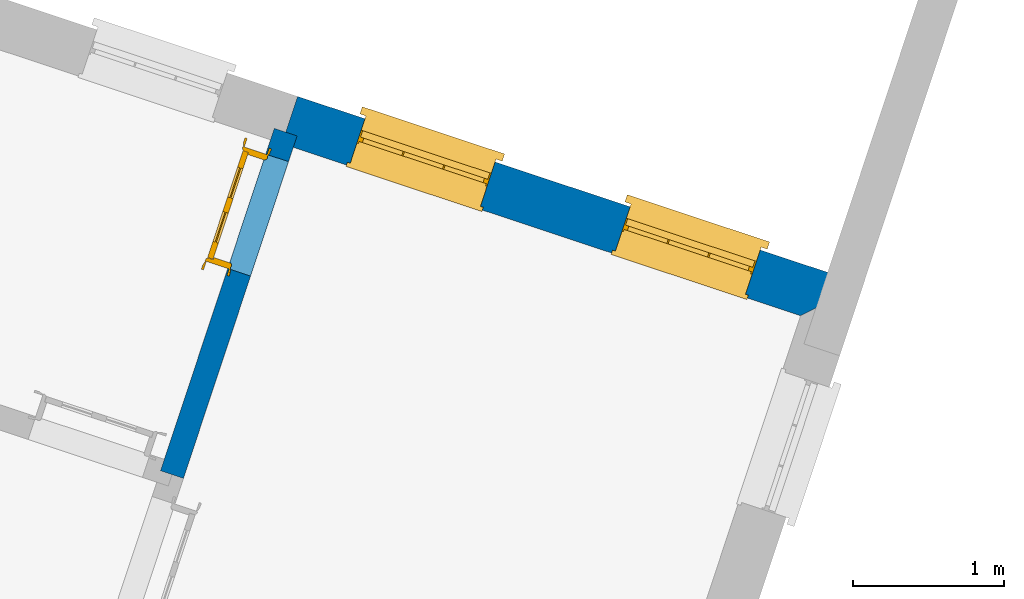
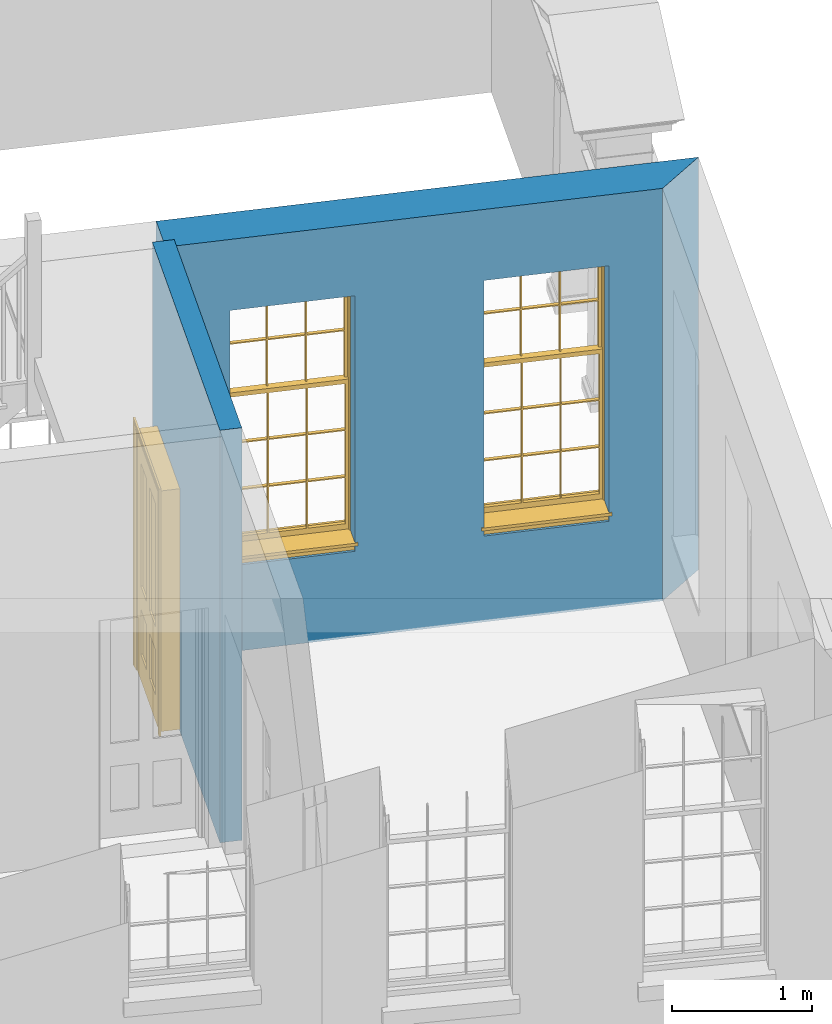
# One storey, part 5 of 6: 2 walls, 2 windows, 1 door, 3 openings.
"""IFC4 building model written with IfcOpenShell, lengths in metres."""

from ifc_helpers import new_model, si_unit, frame, origin, origin_with_axes, place, context, subcontext, project, spatial, polyline, outline, extrude, faceted_brep, source, transform, mapped, material, layer, layer_set, layer_usage, type_object, type_shapes, element, fill, save


model = new_model("IFC4")

# Units and contexts
model_context = context("Model", 3, world=origin_with_axes())
body_context = subcontext(model_context, "Body", "Model", "MODEL_VIEW")
ifc_project = project(units=[si_unit("PLANEANGLEUNIT", "RADIAN"), si_unit("MASSUNIT", "GRAM", prefix="KILO"), si_unit("FORCEUNIT", "NEWTON", prefix="KILO"), si_unit("LENGTHUNIT", "METRE"), si_unit("AREAUNIT", "SQUARE_METRE"), si_unit("VOLUMEUNIT", "CUBIC_METRE")], contexts=[model_context, model_context])

# Sites, building, storey
site_1_placement = place(None, origin_with_axes())
site_1 = spatial("IfcSite", under=ifc_project, at=site_1_placement, Name="Tamar")
site_2_placement = place(site_1_placement, origin_with_axes())
site_2 = spatial("IfcSite", under=site_1, at=site_2_placement, Name="Site plot-18", CompositionType="ELEMENT")
building_placement = place(None, origin_with_axes())
building = spatial("IfcBuilding", under=site_2, at=building_placement, Name="Building plot-18", CompositionType="ELEMENT")
storey_placement = place(None, frame((0.0, 0.0, 26.0), z_axis=(0.0, 0.0, 1.0), x_axis=(1.0, 0.0, 0.0)))
storey = spatial("IfcBuildingStorey", under=building, at=storey_placement, Name="plot-18 0", CompositionType="ELEMENT", Elevation=26.0)

# Wall, openings, windows
ifc_material_1 = material(Name="Masonry")
ifc_layer_1 = layer(ifc_material_1, 0.33, ventilated=False)
ifc_layer_set_1 = layer_set([ifc_layer_1], Name="exterior_0.08_0.25")
ifc_layer_usage_1 = layer_usage(ifc_layer_set_1, "AXIS2", "POSITIVE", -0.25)
wall_type_1 = type_object("IfcWallType", Name="exterior_0.08_0.25", PredefinedType="SOLIDWALL", material=ifc_layer_set_1)
wall_1_placement = place(storey_placement, frame((270.790897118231, 294.207482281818, 0.0), z_axis=(0.0, 0.0, 1.0), x_axis=(-0.949078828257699, 0.31503869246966, 0.0)))
wall_1 = element("IfcWall", 1, at=wall_1_placement, inside=storey, type_object=wall_type_1, material=ifc_layer_usage_1, Name="exterior", context=body_context, shape_type="SweptSolid", body=[
    extrude(outline(polyline([(0.0799999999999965, 0.0799999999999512), (-0.249999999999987, -0.249999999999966), (3.70755693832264, -0.249999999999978), (3.70755693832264, 0.079999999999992), (0.0799999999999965, 0.0799999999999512)])), origin_with_axes(), (0.0, 0.0, 1.0), 3.6),
])
opening_1_placement = place(wall_1_placement, frame((0.47188923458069, 0.0, 0.75)))
opening_1 = element("IfcOpeningElement", 2, at=opening_1_placement, cuts=wall_1, Name="My Opening", ObjectType="Opening", context=body_context, shape_type="SweptSolid", body=[
    extrude(outline(polyline([(0.0, -0.269999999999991), (0.909999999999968, -0.269999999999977), (0.909999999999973, 1.10000000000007), (5.32907051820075e-15, 1.10000000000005), (0.0, -0.269999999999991)])), origin_with_axes(), (0.0, 0.0, 1.0), 2.23),
])
opening_2_placement = place(wall_1_placement, frame((2.32566770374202, 0.0, 0.75)))
opening_2 = element("IfcOpeningElement", 3, at=opening_2_placement, cuts=wall_1, Name="My Opening", ObjectType="Opening", context=body_context, shape_type="SweptSolid", body=[
    extrude(outline(polyline([(0.0, -0.270000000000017), (0.909999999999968, -0.270000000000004), (0.909999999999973, 1.10000000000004), (5.32907051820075e-15, 1.10000000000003), (0.0, -0.270000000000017)])), origin_with_axes(), (0.0, 0.0, 1.0), 2.23),
])
window_type = type_object("IfcWindowType", Name="sash_big_taller", PartitioningType="DOUBLE_PANEL_HORIZONTAL", PredefinedType="NOTDEFINED")
shared_shape_1 = source(origin(), body_context, "Body", "Brep", [
    faceted_brep([(0.033125, 0.145, 1.385209), (0.01, 0.145, 1.385209), (0.033125, 0.145, 1.786042), (0.876875, 0.145, 1.385209), (0.876875, 0.145, 1.786042), (0.9, 0.145, 1.385209), (0.876875, 0.145, 1.796042), (0.876875, 0.145, 2.196875), (0.9, 0.145, 2.22), (0.033125, 0.145, 2.196875), (0.033125, 0.145, 1.796042), (0.01, 0.145, 2.22), (0.876875, 0.115, 1.786042), (0.876875, 0.115, 1.385209), (0.9, 0.115, 1.347084), (0.033125, 0.115, 2.196875), (0.01, 0.115, 2.22), (0.033125, 0.115, 1.796042), (0.01, 0.115, 1.347084), (0.033125, 0.115, 1.385209), (0.033125, 0.115, 1.786042), (0.876875, 0.115, 2.196875), (0.876875, 0.115, 1.796042), (0.9, 0.115, 2.22), (0.033125, 0.145, 1.347084), (0.01, 0.145, 1.347084), (0.033125, 0.145, 0.94625), (0.876875, 0.145, 1.347084), (0.876875, 0.145, 0.94625), (0.9, 0.145, 1.347084), (0.876875, 0.145, 0.52625), (0.876875, 0.145, 0.125417), (0.9, 0.145, 0.077167), (0.033125, 0.145, 0.125417), (0.033125, 0.145, 0.52625), (0.01, 0.145, 0.077167), (-0.0425, 0.0, 0.01), (-0.0425, -0.05, 0.001667), (0.0, 0.0, 0.01), (0.9525, 0.0, 0.01), (0.91, 0.0, 0.01), (0.9525, -0.05, 0.001667), (-0.02, 0.33, 0.077167), (0.0, 0.33, 0.077167), (-0.02, 0.36, 0.077167), (0.0, 0.19, 0.077167), (0.01, 0.19, 0.077167), (0.91, 0.19, 0.077167), (0.91, 0.33, 0.077167), (0.9, 0.19, 0.077167), (0.93, 0.33, 0.077167), (0.93, 0.36, 0.077167), (0.01, 0.175, 1.385209), (0.9, 0.175, 1.385209), (0.876875, 0.175, 0.125417), (0.876875, 0.175, 0.52625), (0.9, 0.175, 0.077167), (0.876875, 0.175, 0.94625), (0.876875, 0.175, 1.347084), (0.033125, 0.175, 0.125417), (0.01, 0.175, 0.077167), (0.033125, 0.175, 0.52625), (0.033125, 0.175, 1.347084), (0.033125, 0.175, 0.94625), (-0.02, 0.33, 0.052167), (-0.02, 0.36, 0.052167), (0.93, 0.36, 0.052167), (0.93, 0.33, 0.052167), (0.91, 0.33, 0.052167), (0.0, 0.33, 0.052167), (0.91, 0.1, 0.026667), (0.0, 0.1, 0.026667), (-0.0425, -0.05, -0.123333), (0.9525, -0.05, -0.123333), (-0.0425, 0.0, -0.123333), (0.9525, 0.0, -0.123333), (0.01, 0.19, 2.22), (0.9, 0.19, 2.22), (0.0, 0.19, 2.23), (0.91, 0.19, 2.23), (0.01, 0.1, 0.077167), (0.9, 0.1, 0.077167), (0.592292, 0.145, 0.125417), (0.592292, 0.175, 0.125417), (0.317708, 0.175, 0.125417), (0.317708, 0.145, 0.125417), (0.592292, 0.145, 0.53625), (0.317708, 0.145, 0.53625), (0.317708, 0.145, 0.52625), (0.592292, 0.145, 0.52625), (0.592292, 0.175, 0.53625), (0.317708, 0.175, 0.53625), (0.592292, 0.115, 1.796042), (0.592292, 0.145, 1.796042), (0.317708, 0.145, 1.796042), (0.317708, 0.115, 1.796042), (0.317708, 0.115, 1.786042), (0.592292, 0.115, 1.786042), (0.317708, 0.145, 1.786042), (0.592292, 0.145, 1.786042), (0.602292, 0.115, 1.786042), (0.592292, 0.115, 1.385209), (0.602292, 0.115, 1.385209), (0.602292, 0.145, 1.385209), (0.592292, 0.145, 1.385209), (0.602292, 0.145, 1.786042), (0.876875, 0.145, 0.53625), (0.876875, 0.175, 0.53625), (0.602292, 0.175, 0.53625), (0.602292, 0.145, 0.53625), (0.317708, 0.175, 0.52625), (0.307708, 0.175, 0.125417), (0.307708, 0.175, 0.52625), (0.602292, 0.175, 0.52625), (0.602292, 0.175, 0.125417), (0.592292, 0.175, 0.52625), (0.307708, 0.175, 0.53625), (0.033125, 0.175, 0.53625), (0.317708, 0.175, 1.347084), (0.317708, 0.175, 0.94625), (0.307708, 0.175, 0.94625), (0.307708, 0.175, 1.347084), (0.602292, 0.175, 1.347084), (0.602292, 0.175, 0.94625), (0.592292, 0.175, 0.94625), (0.592292, 0.175, 1.347084), (0.307708, 0.145, 0.52625), (0.307708, 0.145, 0.125417), (0.307708, 0.145, 0.53625), (0.033125, 0.145, 0.53625), (0.307708, 0.145, 1.347084), (0.307708, 0.145, 0.94625), (0.592292, 0.145, 1.347084), (0.592292, 0.145, 0.94625), (0.317708, 0.145, 0.94625), (0.317708, 0.145, 1.347084), (0.602292, 0.145, 0.94625), (0.602292, 0.145, 1.347084), (0.602292, 0.145, 0.52625), (0.602292, 0.145, 0.125417), (0.307708, 0.115, 1.796042), (0.307708, 0.115, 1.786042), (0.307708, 0.115, 1.385209), (0.317708, 0.115, 1.385209), (0.317708, 0.115, 2.196875), (0.307708, 0.115, 2.196875), (0.602292, 0.115, 2.196875), (0.592292, 0.115, 2.196875), (0.602292, 0.115, 1.796042), (0.602292, 0.145, 1.796042), (0.307708, 0.145, 1.796042), (0.307708, 0.145, 2.196875), (0.317708, 0.145, 2.196875), (0.592292, 0.145, 2.196875), (0.602292, 0.145, 2.196875), (0.307708, 0.145, 1.786042), (0.317708, 0.145, 1.385209), (0.307708, 0.145, 1.385209), (0.876875, 0.175, 0.93625), (0.033125, 0.175, 0.93625), (0.033125, 0.145, 0.93625), (0.876875, 0.145, 0.93625), (0.91, 0.1, 2.23), (0.9, 0.1, 2.22), (0.01, 0.1, 2.22), (0.0, 0.1, 2.23), (0.91, 0.0, 0.0), (0.0, 0.0, 0.0), (0.91, 0.33, 0.0), (0.0, 0.33, 0.0), (0.317708, 0.145, 0.93625), (0.592292, 0.145, 0.93625), (0.317708, 0.175, 0.93625), (0.307708, 0.175, 0.93625), (0.602292, 0.175, 0.93625), (0.592292, 0.175, 0.93625), (0.307708, 0.145, 0.93625), (0.602292, 0.145, 0.93625)], [[[0, 1, 2]], [[3, 4, 5]], [[6, 7, 8]], [[9, 10, 11]], [[12, 13, 14]], [[15, 16, 17]], [[18, 19, 20]], [[21, 22, 23]], [[24, 25, 26]], [[27, 28, 29]], [[30, 31, 32]], [[33, 34, 35]], [[14, 27, 29]], [[25, 24, 18]], [[36, 37, 38]], [[39, 40, 41]], [[42, 43, 44]], [[45, 46, 43]], [[47, 48, 49]], [[50, 51, 48]], [[1, 0, 52]], [[5, 53, 3]], [[54, 55, 56]], [[57, 58, 53]], [[59, 60, 61]], [[62, 63, 52]], [[48, 43, 46, 49]], [[51, 44, 43, 48]], [[64, 42, 44, 65]], [[65, 44, 51, 66]], [[66, 51, 50, 67]], [[65, 66, 68, 69]], [[60, 56, 49, 46]], [[70, 71, 38, 40]], [[37, 41, 40, 38]], [[37, 72, 73, 41]], [[74, 75, 73, 72]], [[8, 11, 76, 77]], [[76, 78, 79, 77]], [[32, 35, 80, 81]], [[81, 80, 71, 70]], [[82, 83, 84, 85]], [[86, 87, 88, 89]], [[86, 90, 91, 87]], [[92, 93, 94, 95]], [[92, 95, 96, 97]], [[96, 98, 99, 97]], [[100, 97, 101, 102]], [[103, 104, 99, 105]], [[97, 99, 104, 101]], [[102, 103, 105, 100]], [[106, 107, 108, 109]], [[110, 84, 111, 112]], [[113, 114, 83, 115]], [[116, 112, 61, 117]], [[90, 115, 110, 91]], [[118, 119, 120, 121]], [[122, 123, 124, 125]], [[113, 108, 107, 55]], [[126, 112, 111, 127]], [[34, 61, 112, 126]], [[89, 115, 83, 82]], [[88, 110, 115, 89]], [[85, 84, 110, 88]], [[128, 116, 117, 129]], [[130, 121, 120, 131]], [[132, 125, 124, 133]], [[134, 119, 118, 135]], [[136, 123, 122, 137]], [[138, 113, 55, 30]], [[139, 114, 113, 138]], [[138, 30, 106, 109]], [[88, 126, 127, 85]], [[138, 89, 82, 139]], [[137, 132, 133, 136]], [[128, 129, 34, 126]], [[135, 130, 131, 134]], [[140, 17, 20, 141]], [[96, 141, 142, 143]], [[144, 145, 140, 95]], [[146, 147, 92, 148]], [[100, 12, 22, 148]], [[149, 6, 4, 105]], [[94, 150, 151, 152]], [[149, 93, 153, 154]], [[99, 98, 94, 93]], [[155, 2, 10, 150]], [[156, 157, 155, 98]], [[141, 155, 157, 142]], [[20, 2, 155, 141]], [[143, 156, 98, 96]], [[140, 150, 10, 17]], [[145, 151, 150, 140]], [[147, 153, 93, 92]], [[95, 94, 152, 144]], [[22, 6, 149, 148]], [[148, 149, 154, 146]], [[100, 105, 4, 12]], [[109, 86, 89, 138]], [[108, 113, 115, 90]], [[91, 110, 112, 116]], [[87, 128, 126, 88]], [[97, 100, 148, 92]], [[141, 96, 95, 140]], [[98, 155, 150, 94]], [[105, 99, 93, 149]], [[143, 101, 104, 156]], [[135, 118, 125, 132]], [[144, 152, 153, 147]], [[127, 111, 59, 33]], [[15, 9, 151, 145]], [[146, 154, 7, 21]], [[31, 54, 114, 139]], [[36, 74, 72, 37]], [[39, 41, 73, 75]], [[18, 14, 101, 143]], [[23, 16, 144, 147]], [[83, 56, 60, 84]], [[52, 53, 125, 118]], [[53, 52, 156, 104]], [[11, 8, 153, 152]], [[14, 18, 135, 132]], [[2, 1, 11, 10]], [[8, 5, 4, 6]], [[57, 53, 56, 158]], [[60, 52, 63, 159]], [[26, 25, 35, 160]], [[32, 29, 28, 161]], [[14, 23, 22, 12]], [[18, 20, 17, 16]], [[19, 0, 2, 20]], [[17, 10, 9, 15]], [[12, 4, 3, 13]], [[21, 7, 6, 22]], [[27, 58, 57, 28]], [[30, 55, 54, 31]], [[33, 59, 61, 34]], [[26, 63, 62, 24]], [[5, 8, 77, 53]], [[76, 11, 1, 52]], [[46, 45, 78, 76]], [[49, 77, 79, 47]], [[70, 162, 163, 81]], [[71, 80, 164, 165]], [[19, 142, 157, 0]], [[102, 13, 3, 103]], [[121, 130, 24, 62]], [[29, 32, 81, 14]], [[80, 35, 25, 18]], [[60, 46, 76, 52]], [[77, 49, 56, 53]], [[23, 14, 81, 163]], [[16, 164, 80, 18]], [[35, 85, 127]], [[127, 33, 35]], [[139, 82, 32]], [[32, 31, 139]], [[32, 82, 85, 35]], [[102, 101, 14]], [[14, 13, 102]], [[18, 143, 142]], [[142, 19, 18]], [[146, 21, 23]], [[23, 147, 146]], [[16, 15, 145]], [[145, 144, 16]], [[11, 152, 151]], [[151, 9, 11]], [[154, 153, 8]], [[8, 7, 154]], [[23, 163, 164, 16]], [[162, 165, 164, 163]], [[52, 118, 121]], [[121, 62, 52]], [[125, 53, 122]], [[58, 122, 53]], [[27, 137, 122, 58]], [[56, 83, 114]], [[114, 54, 56]], [[111, 84, 60]], [[60, 59, 111]], [[137, 27, 14]], [[14, 132, 137]], [[130, 135, 18]], [[18, 24, 130]], [[157, 156, 52]], [[52, 0, 157]], [[103, 3, 53]], [[53, 104, 103]], [[79, 78, 165, 162]], [[78, 45, 71, 165]], [[162, 70, 47, 79]], [[166, 75, 74, 167]], [[68, 66, 67]], [[48, 68, 67, 50]], [[69, 64, 65]], [[42, 64, 69, 43]], [[69, 68, 168, 169]], [[70, 68, 48, 47]], [[166, 168, 68, 70]], [[43, 69, 71, 45]], [[69, 169, 167, 71]], [[168, 166, 167, 169]], [[38, 167, 74, 36]], [[71, 167, 38]], [[39, 75, 166, 40]], [[40, 166, 70]], [[133, 134, 170, 171]], [[133, 124, 119, 134]], [[28, 57, 123, 136]], [[172, 91, 116, 173]], [[174, 108, 90, 175]], [[120, 173, 159, 63]], [[124, 175, 172, 119]], [[174, 123, 57, 158]], [[176, 173, 116, 128]], [[160, 159, 173, 176]], [[171, 175, 90, 86]], [[170, 172, 175, 171]], [[87, 91, 172, 170]], [[131, 120, 63, 26]], [[177, 174, 158, 161]], [[109, 108, 174, 177]], [[177, 161, 28, 136]], [[170, 176, 128, 87]], [[177, 171, 86, 109]], [[131, 26, 160, 176]], [[136, 133, 171, 177]], [[123, 174, 175, 124]], [[119, 172, 173, 120]], [[134, 131, 176, 170]], [[129, 117, 159, 160]], [[161, 158, 107, 106]], [[35, 34, 129]], [[35, 129, 160]], [[32, 106, 30]], [[32, 161, 106]], [[56, 55, 107]], [[56, 107, 158]], [[60, 117, 61]], [[60, 159, 117]]]),
])
type_shapes(window_type, [shared_shape_1])
window_1_placement = place(storey_placement, frame((270.428097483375, 294.6123969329, 0.75), z_axis=(0.0, 0.0, 1.0), x_axis=(-0.86366173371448, 0.286685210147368, 0.0)))
window_1 = element("IfcWindow", 4, at=window_1_placement, inside=storey, type_object=window_type, Name="living outside window", OverallHeight=2.23, OverallWidth=0.91, context=body_context, shape_type="MappedRepresentation", body=[
    mapped(shared_shape_1, transform((0.0, 0.0, 0.0), scale=1.0)),
])
fill(opening_1, window_1)
window_2_placement = place(storey_placement, frame((268.668715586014, 295.196408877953, 0.75), z_axis=(0.0, 0.0, 1.0), x_axis=(-0.86366173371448, 0.286685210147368, 0.0)))
window_2 = element("IfcWindow", 5, at=window_2_placement, inside=storey, type_object=window_type, Name="living outside window", OverallHeight=2.23, OverallWidth=0.91, context=body_context, shape_type="MappedRepresentation", body=[
    mapped(shared_shape_1, transform((0.0, 0.0, 0.0), scale=1.0)),
])
fill(opening_2, window_2)

# Wall, opening, door
ifc_material_2 = material(Name="Masonry")
ifc_layer_2 = layer(ifc_material_2, 0.16, ventilated=False)
ifc_layer_set_2 = layer_set([ifc_layer_2], Name="interior_0.08_0.08")
ifc_layer_usage_2 = layer_usage(ifc_layer_set_2, "AXIS2", "POSITIVE", -0.08)
wall_type_2 = type_object("IfcWallType", Name="interior_0.08_0.08", PredefinedType="SOLIDWALL", material=ifc_layer_set_2)
wall_2_placement = place(storey_placement, frame((266.51771859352, 293.102772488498, 0.0), z_axis=(0.0, 0.0, 1.0), x_axis=(0.315038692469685, 0.949078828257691, 0.0)))
wall_2 = element("IfcWall", 6, at=wall_2_placement, inside=storey, type_object=wall_type_2, material=ifc_layer_usage_2, Name="interior", context=body_context, shape_type="SweptSolid", body=[
    extrude(outline(polyline([(-1.5289533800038e-14, 0.0799999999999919), (1.52993309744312e-14, -0.0799999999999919), (2.39467325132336, -0.0799999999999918), (2.39467325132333, 0.0799999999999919), (-1.5289533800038e-14, 0.0799999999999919)])), origin_with_axes(), (0.0, 0.0, 1.0), 3.6),
])
opening_3_placement = place(wall_2_placement, frame((1.41467325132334, 0.0, 0.0199999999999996)))
opening_3 = element("IfcOpeningElement", 7, at=opening_3_placement, cuts=wall_2, Name="My Opening", ObjectType="Opening", context=body_context, shape_type="SweptSolid", body=[
    extrude(outline(polyline([(0.0, -0.100000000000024), (0.799999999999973, -0.100000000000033), (0.799999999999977, 1.10000000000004), (4.66293670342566e-15, 1.10000000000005), (0.0, -0.100000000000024)])), origin_with_axes(), (0.0, 0.0, 1.0), 2.1),
])
door_type = type_object("IfcDoorType", Name="door_inside", OperationType="SINGLE_SWING_LEFT", PredefinedType="NOTDEFINED")
shared_shape_2 = source(origin(), body_context, "Body", "Brep", [
    faceted_brep([(0.773, 0.33, 1.895), (0.66, 0.33, 1.895), (0.66, 0.33, 2.073), (0.773, 0.33, 2.073), (0.773, 0.33, 0.82), (0.66, 0.33, 0.82), (0.45, 0.33, 1.895), (0.45, 0.33, 2.073), (0.773, 0.33, 0.62), (0.66, 0.33, 0.62), (0.66, 0.315, 0.82), (0.66, 0.315, 1.895), (0.45, 0.315, 1.895), (0.35, 0.33, 1.895), (0.35, 0.33, 2.073), (0.773, 0.33, 0.225), (0.66, 0.33, 0.225), (0.45, 0.33, 0.62), (0.45, 0.33, 0.82), (0.45, 0.315, 0.82), (0.35, 0.33, 0.82), (0.14, 0.33, 2.073), (0.14, 0.33, 1.895), (0.773, 0.33, 0.0), (0.66, 0.33, 0.0), (0.66, 0.315, 0.225), (0.66, 0.315, 0.62), (0.45, 0.315, 0.62), (0.35, 0.33, 0.62), (0.35, 0.315, 0.82), (0.35, 0.315, 1.895), (0.14, 0.315, 1.895), (0.027, 0.33, 2.073), (0.027, 0.33, 1.895), (0.773, 0.292, 0.0), (0.66, 0.292, 0.0), (0.45, 0.33, 0.0), (0.45, 0.33, 0.225), (0.45, 0.315, 0.225), (0.35, 0.33, 0.225), (0.14, 0.33, 0.82), (0.14, 0.33, 0.62), (0.14, 0.315, 0.82), (0.027, 0.33, 0.82), (0.773, 0.292, 0.225), (0.66, 0.292, 0.225), (0.45, 0.292, 0.0), (0.35, 0.33, 0.0), (0.35, 0.315, 0.225), (0.35, 0.315, 0.62), (0.14, 0.315, 0.62), (0.027, 0.33, 0.62), (0.773, 0.292, 0.62), (0.66, 0.292, 0.62), (0.45, 0.292, 0.225), (0.35, 0.292, 0.0), (0.14, 0.33, 0.225), (0.14, 0.33, 0.0), (0.14, 0.315, 0.225), (0.027, 0.33, 0.225), (0.773, 0.292, 0.82), (0.66, 0.292, 0.82), (0.66, 0.307, 0.62), (0.66, 0.307, 0.225), (0.45, 0.307, 0.225), (0.35, 0.292, 0.225), (0.14, 0.292, 0.0), (0.027, 0.33, 0.0), (0.773, 0.292, 1.895), (0.66, 0.292, 1.895), (0.45, 0.292, 0.62), (0.45, 0.292, 0.82), (0.45, 0.307, 0.62), (0.35, 0.292, 0.62), (0.14, 0.292, 0.225), (0.027, 0.292, 0.0), (0.773, 0.292, 2.073), (0.66, 0.292, 2.073), (0.66, 0.307, 1.895), (0.66, 0.307, 0.82), (0.45, 0.307, 0.82), (0.35, 0.292, 0.82), (0.35, 0.307, 0.62), (0.35, 0.307, 0.225), (0.14, 0.307, 0.225), (0.027, 0.292, 0.225), (0.45, 0.292, 1.895), (0.45, 0.292, 2.073), (0.45, 0.307, 1.895), (0.35, 0.292, 1.895), (0.14, 0.292, 0.82), (0.14, 0.292, 0.62), (0.14, 0.307, 0.62), (0.027, 0.292, 0.62), (0.35, 0.292, 2.073), (0.35, 0.307, 1.895), (0.35, 0.307, 0.82), (0.14, 0.307, 0.82), (0.027, 0.292, 0.82), (0.14, 0.292, 2.073), (0.14, 0.292, 1.895), (0.14, 0.307, 1.895), (0.027, 0.292, 1.895), (0.027, 0.292, 2.073), (0.02, 0.335, 0.0), (0.005, 0.34, 0.0), (0.005, 0.34, 2.095), (0.02, 0.335, 2.08), (0.02, 0.33, 0.0), (0.0, 0.335, 0.0), (0.0, 0.335, 2.1), (0.795, 0.34, 2.095), (0.78, 0.335, 2.08), (0.02, 0.33, 2.08), (0.0, 0.33, 0.0), (-0.032, 0.345, 0.0), (-0.032, 0.345, 2.132), (0.8, 0.335, 2.1), (0.795, 0.34, 0.0), (0.78, 0.335, 0.0), (0.78, 0.33, 2.08), (0.04, 0.29, 0.0), (0.025, 0.29, 0.0), (0.025, 0.29, 2.075), (0.04, 0.29, 2.06), (-0.04, 0.34, 0.0), (-0.04, 0.34, 2.14), (0.832, 0.345, 2.132), (0.8, 0.335, 0.0), (0.78, 0.33, 0.0), (0.8, 0.33, 0.0), (0.86, 0.33, 0.0), (0.86, 0.33, 2.16), (0.8, 0.33, 2.1), (-0.06, 0.33, 2.16), (0.0, 0.33, 2.1), (-0.06, 0.33, 0.0), (-0.04, 0.345, 0.0), (-0.04, 0.345, 2.14), (0.84, 0.34, 2.14), (0.832, 0.345, 0.0), (0.84, 0.34, 0.0), (0.86, 0.345, 0.0), (0.86, 0.345, 2.16), (-0.06, 0.345, 2.16), (-0.06, 0.345, 0.0), (0.84, 0.345, 0.0), (0.84, 0.345, 2.14), (-0.025, 0.155, 0.0), (-0.025, 0.16, 0.0), (-0.025, 0.16, 2.125), (-0.025, 0.155, 2.125), (-0.017, 0.155, 0.0), (-0.017, 0.155, 2.117), (0.825, 0.16, 2.125), (0.825, 0.155, 2.125), (0.825, 0.155, 0.0), (0.845, 0.155, 0.0), (-0.045, 0.155, 2.145), (-0.045, 0.155, 0.0), (0.845, 0.155, 2.145), (0.015, 0.165, 0.0), (0.015, 0.165, 2.085), (0.817, 0.155, 2.117), (0.825, 0.16, 0.0), (0.845, 0.17, 0.0), (0.845, 0.17, 2.145), (-0.045, 0.17, 2.145), (-0.045, 0.17, 0.0), (0.02, 0.16, 0.0), (0.02, 0.16, 2.08), (0.785, 0.165, 2.085), (0.817, 0.155, 0.0), (0.8, 0.17, 0.0), (0.8, 0.17, 2.1), (0.0, 0.17, 2.1), (0.0, 0.17, 0.0), (0.035, 0.165, 0.0), (0.035, 0.165, 2.065), (0.78, 0.16, 2.08), (0.785, 0.165, 0.0), (0.775, 0.29, 2.075), (0.76, 0.29, 2.06), (0.035, 0.17, 2.065), (0.035, 0.17, 0.0), (0.765, 0.165, 2.065), (0.78, 0.16, 0.0), (0.765, 0.17, 0.0), (0.765, 0.17, 2.065), (0.765, 0.165, 0.0), (0.04, 0.17, 2.06), (0.04, 0.17, 0.0), (0.76, 0.17, 2.06), (0.76, 0.17, 0.0), (0.76, 0.29, 0.0), (0.775, 0.29, 0.0), (0.025, 0.33, 0.0), (0.025, 0.33, 2.075), (0.775, 0.33, 0.0), (0.775, 0.33, 2.075)], [[[0, 1, 2, 3]], [[1, 0, 4, 5]], [[1, 6, 7, 2]], [[8, 9, 5, 4]], [[1, 5, 10, 11]], [[6, 1, 11, 12]], [[6, 13, 14, 7]], [[15, 16, 9, 8]], [[9, 17, 18, 5]], [[5, 18, 19, 10]], [[10, 19, 12, 11]], [[18, 6, 12, 19]], [[18, 20, 13, 6]], [[21, 14, 13, 22]], [[23, 24, 16, 15]], [[9, 16, 25, 26]], [[17, 9, 26, 27]], [[17, 28, 20, 18]], [[13, 20, 29, 30]], [[22, 13, 30, 31]], [[32, 21, 22, 33]], [[34, 35, 24, 23]], [[24, 36, 37, 16]], [[16, 37, 38, 25]], [[25, 38, 27, 26]], [[37, 17, 27, 38]], [[37, 39, 28, 17]], [[40, 20, 28, 41]], [[20, 40, 42, 29]], [[31, 30, 29, 42]], [[40, 22, 31, 42]], [[33, 22, 40, 43]], [[35, 34, 44, 45]], [[35, 46, 36, 24]], [[36, 47, 39, 37]], [[28, 39, 48, 49]], [[41, 28, 49, 50]], [[43, 40, 41, 51]], [[45, 44, 52, 53]], [[46, 35, 45, 54]], [[46, 55, 47, 36]], [[56, 39, 47, 57]], [[39, 56, 58, 48]], [[50, 49, 48, 58]], [[56, 41, 50, 58]], [[51, 41, 56, 59]], [[53, 52, 60, 61]], [[45, 53, 62, 63]], [[54, 45, 63, 64]], [[55, 46, 54, 65]], [[55, 66, 57, 47]], [[59, 56, 57, 67]], [[61, 60, 68, 69]], [[70, 53, 61, 71]], [[53, 70, 72, 62]], [[72, 64, 63, 62]], [[70, 54, 64, 72]], [[65, 54, 70, 73]], [[65, 74, 66, 55]], [[67, 57, 66, 75]], [[69, 68, 76, 77]], [[61, 69, 78, 79]], [[71, 61, 79, 80]], [[73, 70, 71, 81]], [[65, 73, 82, 83]], [[74, 65, 83, 84]], [[74, 85, 75, 66]], [[86, 69, 77, 87]], [[69, 86, 88, 78]], [[88, 80, 79, 78]], [[86, 71, 80, 88]], [[81, 71, 86, 89]], [[73, 81, 90, 91]], [[73, 91, 92, 82]], [[83, 82, 92, 84]], [[91, 74, 84, 92]], [[91, 93, 85, 74]], [[89, 86, 87, 94]], [[81, 89, 95, 96]], [[90, 81, 96, 97]], [[90, 98, 93, 91]], [[94, 99, 100, 89]], [[89, 100, 101, 95]], [[101, 97, 96, 95]], [[100, 90, 97, 101]], [[100, 102, 98, 90]], [[99, 103, 102, 100]], [[32, 103, 99, 21]], [[102, 103, 32, 33]], [[98, 102, 33, 43]], [[21, 99, 94, 14]], [[94, 87, 7, 14]], [[7, 87, 77, 2]], [[76, 3, 2, 77]], [[43, 51, 93, 98]], [[51, 59, 85, 93]], [[67, 75, 85, 59]], [[34, 23, 15, 44]], [[44, 15, 8, 52]], [[52, 8, 4, 60]], [[0, 68, 60, 4]], [[0, 3, 76, 68]], [[104, 105, 106, 107]], [[104, 108, 109, 105]], [[105, 109, 110, 106]], [[107, 106, 111, 112]], [[107, 113, 108, 104]], [[114, 109, 108]], [[109, 115, 116, 110]], [[106, 110, 117, 111]], [[112, 111, 118, 119]], [[113, 107, 112, 120]], [[121, 122, 123, 124]], [[115, 109, 114, 125]], [[115, 125, 126, 116]], [[110, 116, 127, 117]], [[111, 117, 128, 118]], [[118, 128, 129, 119]], [[120, 112, 119, 129]], [[130, 129, 128]], [[130, 131, 132, 133]], [[133, 132, 134, 135]], [[135, 134, 136, 114]], [[136, 125, 114]], [[125, 137, 138, 126]], [[116, 126, 139, 127]], [[117, 127, 140, 128]], [[141, 130, 128, 140]], [[131, 130, 141]], [[131, 142, 143, 132]], [[132, 143, 144, 134]], [[134, 144, 145, 136]], [[137, 125, 136, 145]], [[143, 142, 146]], [[143, 146, 147]], [[137, 145, 144]], [[143, 147, 138]], [[138, 137, 144]], [[143, 138, 144]], [[126, 138, 147, 139]], [[127, 139, 141, 140]], [[142, 131, 141, 146]], [[139, 147, 146, 141]], [[148, 149, 150, 151]], [[149, 152, 153, 150]], [[151, 150, 154, 155]], [[155, 156, 157]], [[158, 159, 148]], [[158, 148, 151]], [[155, 157, 160]], [[158, 151, 155]], [[155, 160, 158]], [[152, 161, 162, 153]], [[150, 153, 163, 154]], [[155, 154, 164, 156]], [[156, 164, 165, 157]], [[157, 165, 166, 160]], [[160, 166, 167, 158]], [[158, 167, 168, 159]], [[161, 169, 170, 162]], [[153, 162, 171, 163]], [[154, 163, 172, 164]], [[165, 164, 173]], [[165, 173, 174, 166]], [[166, 174, 175, 167]], [[167, 175, 176, 168]], [[169, 177, 178, 170]], [[162, 170, 179, 171]], [[163, 171, 180, 172]], [[172, 180, 173, 164]], [[124, 123, 181, 182]], [[183, 178, 177, 184]], [[170, 178, 185, 179]], [[171, 179, 186, 180]], [[187, 173, 180]], [[185, 188, 187, 189]], [[188, 185, 178, 183]], [[179, 185, 189, 186]], [[189, 187, 180, 186]], [[190, 183, 184, 191]], [[192, 188, 183, 190]], [[191, 184, 122, 121]], [[124, 190, 191, 121]], [[193, 187, 188, 192]], [[182, 192, 190, 124]], [[184, 176, 122]], [[194, 195, 187, 193]], [[192, 182, 194, 193]], [[161, 176, 184]], [[114, 108, 122, 176]], [[173, 187, 195]], [[152, 149, 176, 161]], [[169, 161, 184, 177]], [[196, 122, 108]], [[176, 175, 135, 114]], [[173, 195, 129, 130]], [[176, 149, 168]], [[123, 122, 196, 197]], [[196, 108, 113, 197]], [[175, 174, 133, 135]], [[198, 129, 195]], [[133, 174, 173, 130]], [[159, 168, 149, 148]], [[181, 123, 197, 199]], [[197, 113, 120, 199]], [[199, 120, 129, 198]], [[195, 181, 199, 198]], [[195, 194, 182, 181]]]),
])
type_shapes(door_type, [shared_shape_2])
door_placement = place(storey_placement, frame((267.058303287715, 294.413905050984, 0.0199999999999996), z_axis=(0.0, 0.0, 1.0), x_axis=(0.252030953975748, 0.759263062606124, 0.0)))
door = element("IfcDoor", 8, at=door_placement, inside=storey, type_object=door_type, Name="living inside door", OverallHeight=2.1, OverallWidth=0.8, context=body_context, shape_type="MappedRepresentation", body=[
    mapped(shared_shape_2, transform((0.0, 0.0, 0.0), scale=1.0)),
])
fill(opening_3, door)

save(model, "model.ifc")
